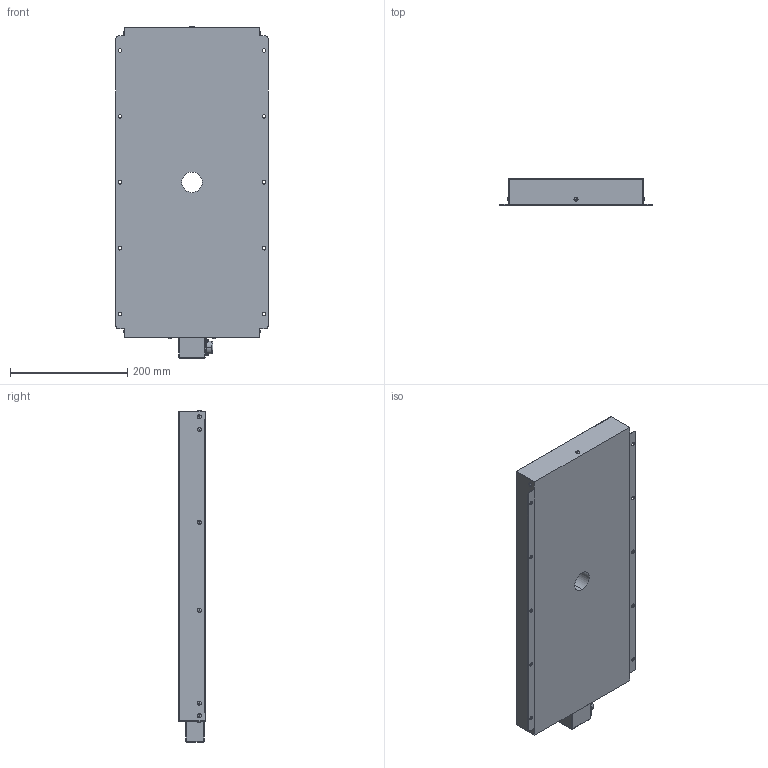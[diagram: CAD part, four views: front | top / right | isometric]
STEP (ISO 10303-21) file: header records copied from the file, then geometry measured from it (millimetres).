
FILE_DESCRIPTION (( 'STEP AP214' ), '1' );
FILE_NAME ('HDSBPA-500x200_-24-35D.STEP', '2023-06-01T07:33:00', ( '' ), ( '' ), 'SwSTEP 2.0', 'SolidWorks 2022', '' );
FILE_SCHEMA (( 'AUTOMOTIVE_DESIGN' ));
Length unit declared in the file: millimetre
Products named in the file (1): HDSBPA-500x200_-24-35D
Bounding box: 260 x 45 x 566.9 mm (x, y, z)
Volume: 5412917.6 mm3; surface area: 352796.9 mm2
Topology: 1 solids, 1 shells, 192 faces, 520 edges, 303 vertices
Faces by surface type: cylinder 96, sphere 54, plane 32, torus 8, cone 2
Entity records: 5608 total; most frequent: DIRECTION 1100, CARTESIAN_POINT 916, ORIENTED_EDGE 886, AXIS2_PLACEMENT_3D 464, EDGE_CURVE 443, VERTEX_POINT 280, CIRCLE 271, EDGE_LOOP 241
